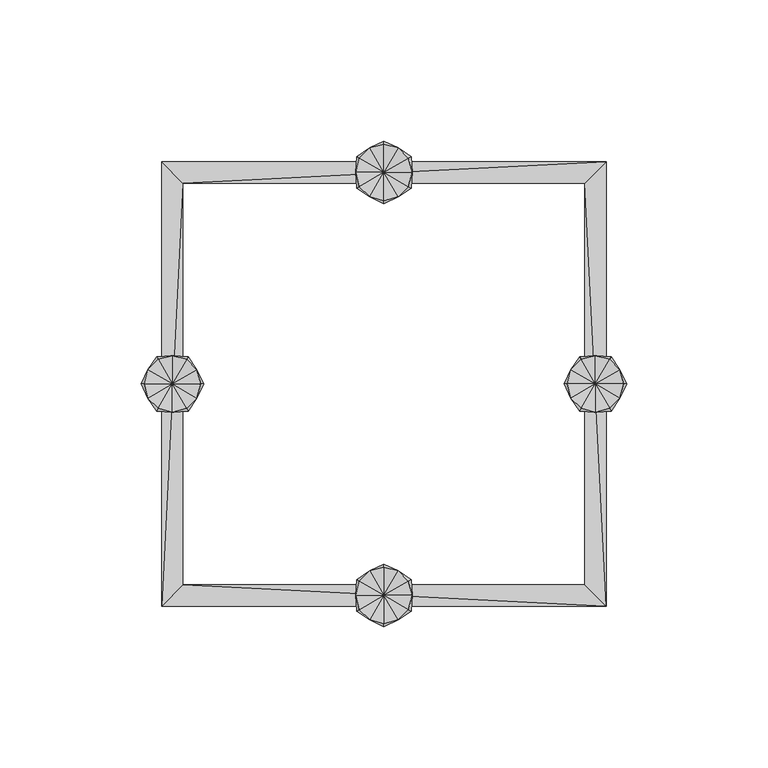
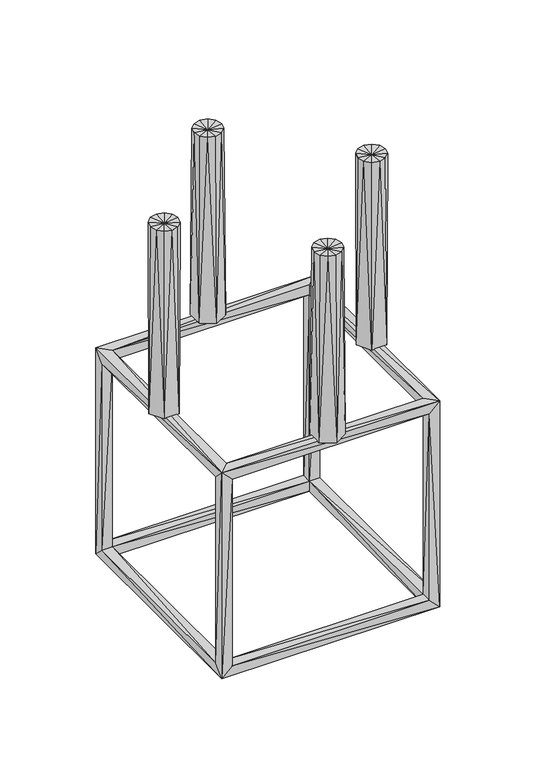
"""IFC4 building model written with IfcOpenShell, lengths in millimetres: geographic element geometry, Enscape AssetDefinition - Candle Holder : Enscape AssetDefinition - Candle Holder."""

from ifc_helpers import new_model, si_unit, origin, place, context, project, spatial, faceted_brep, source, transform, mapped, element, save


def geographic_element_282e2fb7(model_context):
    return source(origin(), model_context, "Body", "Brep", [
        faceted_brep([(-78.7499994, 78.7499994, 157.4999988), (-71.2499991, 71.2499991, 157.4999988), (78.7499994, 78.7499994, 157.4999988), (71.2499991, 71.2499991, 157.4999988), (71.2499991, 71.2499991, 150.000006), (-78.7499994, -78.7499994, 157.4999988), (-71.2499991, 71.2499991, 150.000006), (-71.2499991, -71.2499991, 150.000006), (-71.2499991, -71.2499991, 157.4999988), (78.7499994, -78.7499994, 157.4999988), (71.2499991, -71.2499991, 157.4999988), (71.2499991, -71.2499991, 150.000006), (78.7499994, -71.2499991, 150.000006), (78.7499994, 71.2499991, 150.000006), (78.7499994, -78.7499994, 0.0), (71.2499991, -78.7499994, 150.000006), (78.7499994, -71.2499991, 7.4999998), (71.2499991, 71.2499991, 7.4999998), (71.2499991, 78.7499994, 150.000006), (71.2499991, 78.7499994, 7.4999998), (-71.2499991, 78.7499994, 150.000006), (78.7499994, 78.7499994, 0.0), (-71.2499991, 78.7499994, 7.4999998), (-78.7499994, 78.7499994, 0.0), (-71.2499991, 71.2499991, 7.4999998), (-78.7499994, 71.2499991, 150.000006), (-78.7499994, -71.2499991, 150.000006), (-78.7499994, -78.7499994, 0.0), (-78.7499994, -71.2499991, 7.4999998), (-71.2499991, -78.7499994, 150.000006), (-78.7499994, 71.2499991, 7.4999998), (-71.2499991, -71.2499991, 7.4999998), (-71.2499991, -71.2499991, 0.0), (-71.2499991, -78.7499994, 7.4999998), (71.2499991, -78.7499994, 7.4999998), (71.2499991, -71.2499991, 7.4999998), (-71.2499991, 71.2499991, 0.0), (71.2499991, 71.2499991, 0.0), (78.7499994, 71.2499991, 7.4999998), (71.2499991, -71.2499991, 0.0)], [[[0, 1, 2]], [[3, 1, 4]], [[0, 5, 1]], [[6, 1, 7]], [[2, 1, 3]], [[4, 1, 6]], [[1, 5, 8]], [[7, 1, 8]], [[2, 3, 9]], [[9, 3, 10]], [[4, 10, 3]], [[11, 7, 10]], [[11, 10, 4]], [[8, 9, 10]], [[10, 7, 8]], [[5, 9, 8]], [[12, 13, 9]], [[9, 14, 12]], [[9, 5, 15]], [[9, 13, 2]], [[15, 14, 9]], [[11, 4, 12]], [[12, 16, 11]], [[12, 4, 13]], [[12, 14, 16]], [[4, 17, 13]], [[4, 6, 18]], [[19, 4, 18]], [[17, 4, 19]], [[18, 20, 2]], [[2, 21, 18]], [[18, 21, 19]], [[18, 6, 20]], [[19, 22, 17]], [[21, 23, 19]], [[19, 23, 22]], [[23, 0, 22]], [[17, 22, 24]], [[6, 22, 20]], [[6, 24, 22]], [[22, 0, 20]], [[2, 20, 0]], [[25, 5, 0]], [[23, 25, 0]], [[26, 5, 25]], [[27, 5, 28]], [[27, 29, 5]], [[28, 5, 26]], [[15, 5, 29]], [[30, 25, 23]], [[6, 26, 25]], [[30, 6, 25]], [[7, 26, 6]], [[26, 7, 28]], [[24, 6, 30]], [[28, 30, 27]], [[28, 24, 30]], [[27, 30, 23]], [[31, 24, 28]], [[28, 7, 31]], [[7, 29, 31]], [[29, 7, 15]], [[15, 7, 11]], [[31, 32, 24]], [[33, 34, 31]], [[31, 29, 33]], [[31, 34, 35]], [[35, 32, 31]], [[34, 14, 15]], [[34, 33, 14]], [[15, 35, 34]], [[33, 29, 27]], [[14, 33, 27]], [[27, 32, 14]], [[23, 36, 27]], [[27, 36, 32]], [[23, 21, 36]], [[37, 24, 36]], [[24, 32, 36]], [[36, 21, 37]], [[21, 14, 37]], [[38, 21, 13]], [[38, 14, 21]], [[13, 21, 2]], [[17, 24, 37]], [[37, 14, 39]], [[39, 17, 37]], [[35, 16, 17]], [[35, 17, 39]], [[17, 16, 38]], [[13, 17, 38]], [[16, 14, 38]], [[14, 32, 39]], [[39, 32, 35]], [[11, 35, 15]], [[11, 16, 35]]]),
        faceted_brep([(-9.6239997, -69.4440007, 157.4999988), (-10.0365002, -75.000003, 300.0000119), (-8.6917505, -69.9817538, 300.0000119), (0.0, -75.000003, 298.9537418), (-8.6917505, -80.0182521, 300.0000119), (-9.6239997, -80.5560052, 157.4999988), (-5.0182501, -66.3082525, 300.0000119), (0.0, -75.000003, 157.4999988), (0.0, -63.8872534, 157.4999988), (0.0, -86.1127526, 157.4999988), (-5.0182501, -83.691746, 300.0000119), (0.0, -85.0365013, 300.0000119), (5.0182501, -83.691746, 300.0000119), (9.6239997, -80.5560052, 157.4999988), (9.6239997, -69.4440007, 157.4999988), (10.0365002, -75.000003, 300.0000119), (8.6917505, -80.0182521, 300.0000119), (8.6917505, -69.9817538, 300.0000119), (5.0182501, -66.3082525, 300.0000119), (0.0, -64.9634972, 300.0000119)], [[[0, 1, 2]], [[2, 1, 3]], [[1, 4, 3]], [[1, 0, 5]], [[1, 5, 4]], [[6, 2, 3]], [[6, 0, 2]], [[7, 5, 0]], [[7, 0, 8]], [[6, 8, 0]], [[7, 9, 5]], [[10, 4, 5]], [[10, 5, 9]], [[4, 10, 3]], [[10, 9, 11]], [[10, 11, 3]], [[9, 12, 11]], [[7, 13, 9]], [[12, 9, 13]], [[7, 8, 14]], [[7, 14, 13]], [[13, 15, 16]], [[15, 13, 14]], [[12, 13, 16]], [[12, 16, 3]], [[11, 12, 3]], [[16, 15, 3]], [[15, 17, 3]], [[15, 14, 17]], [[14, 18, 17]], [[18, 14, 8]], [[17, 18, 3]], [[19, 6, 3]], [[18, 19, 3]], [[18, 8, 19]], [[8, 6, 19]]]),
        faceted_brep([(5.0182501, 83.691746, 300.0000119), (0.0, 86.1127526, 157.4999988), (0.0, 85.0365013, 300.0000119), (-9.6239997, 80.5560052, 157.4999988), (0.0, 75.000003, 157.4999988), (-5.0182501, 83.691746, 300.0000119), (9.6239997, 80.5560052, 157.4999988), (0.0, 75.000003, 298.9537418), (8.6917505, 80.0182521, 300.0000119), (9.6239997, 69.4440007, 157.4999988), (10.0365002, 75.000003, 300.0000119), (8.6917505, 69.9817538, 300.0000119), (5.0182501, 66.3082525, 300.0000119), (0.0, 63.8872534, 157.4999988), (0.0, 64.9634972, 300.0000119), (-9.6239997, 69.4440007, 157.4999988), (-5.0182501, 66.3082525, 300.0000119), (-8.6917505, 69.9817538, 300.0000119), (-10.0365002, 75.000003, 300.0000119), (-8.6917505, 80.0182521, 300.0000119)], [[[0, 1, 2]], [[3, 1, 4]], [[1, 5, 2]], [[1, 6, 4]], [[0, 6, 1]], [[5, 1, 3]], [[7, 0, 2]], [[7, 2, 5]], [[7, 8, 0]], [[0, 8, 6]], [[6, 9, 4]], [[10, 6, 8]], [[10, 9, 6]], [[7, 10, 8]], [[7, 11, 10]], [[10, 11, 9]], [[12, 9, 11]], [[9, 13, 4]], [[12, 13, 9]], [[7, 12, 11]], [[7, 14, 12]], [[12, 14, 13]], [[13, 15, 4]], [[16, 13, 14]], [[16, 15, 13]], [[7, 16, 14]], [[7, 17, 16]], [[16, 17, 15]], [[15, 3, 4]], [[18, 15, 17]], [[18, 3, 15]], [[7, 18, 17]], [[7, 19, 18]], [[18, 19, 3]], [[5, 3, 19]], [[7, 5, 19]]]),
        faceted_brep([(69.4440007, -9.6239997, 157.4999988), (75.000003, -10.0365002, 300.0000119), (69.9817538, -8.6917505, 300.0000119), (75.000003, 0.0, 298.9537418), (80.0182521, -8.6917505, 300.0000119), (80.5560052, -9.6239997, 157.4999988), (66.3082525, -5.0182501, 300.0000119), (75.000003, 0.0, 157.4999988), (63.8872534, 0.0, 157.4999988), (86.1127526, 0.0, 157.4999988), (83.691746, -5.0182501, 300.0000119), (85.0365013, 0.0, 300.0000119), (83.691746, 5.0182501, 300.0000119), (80.5560052, 9.6239997, 157.4999988), (69.4440007, 9.6239997, 157.4999988), (75.000003, 10.0365002, 300.0000119), (80.0182521, 8.6917505, 300.0000119), (69.9817538, 8.6917505, 300.0000119), (66.3082525, 5.0182501, 300.0000119), (64.9634972, 0.0, 300.0000119)], [[[0, 1, 2]], [[2, 1, 3]], [[1, 4, 3]], [[1, 0, 5]], [[1, 5, 4]], [[6, 2, 3]], [[6, 0, 2]], [[7, 5, 0]], [[7, 0, 8]], [[6, 8, 0]], [[7, 9, 5]], [[10, 4, 5]], [[10, 5, 9]], [[4, 10, 3]], [[10, 9, 11]], [[10, 11, 3]], [[9, 12, 11]], [[7, 13, 9]], [[12, 9, 13]], [[7, 8, 14]], [[7, 14, 13]], [[13, 15, 16]], [[15, 13, 14]], [[12, 13, 16]], [[12, 16, 3]], [[11, 12, 3]], [[16, 15, 3]], [[15, 17, 3]], [[15, 14, 17]], [[14, 18, 17]], [[18, 14, 8]], [[17, 18, 3]], [[19, 6, 3]], [[18, 19, 3]], [[18, 8, 19]], [[8, 6, 19]]]),
        faceted_brep([(-83.691746, 5.0182501, 300.0000119), (-86.1127526, 0.0, 157.4999988), (-85.0365013, 0.0, 300.0000119), (-80.5560052, -9.6239997, 157.4999988), (-75.000003, 0.0, 157.4999988), (-83.691746, -5.0182501, 300.0000119), (-80.5560052, 9.6239997, 157.4999988), (-75.000003, 0.0, 298.9537418), (-80.0182521, 8.6917505, 300.0000119), (-69.4440007, 9.6239997, 157.4999988), (-75.000003, 10.0365002, 300.0000119), (-69.9817538, 8.6917505, 300.0000119), (-66.3082525, 5.0182501, 300.0000119), (-63.8872534, 0.0, 157.4999988), (-64.9634972, 0.0, 300.0000119), (-69.4440007, -9.6239997, 157.4999988), (-66.3082525, -5.0182501, 300.0000119), (-69.9817538, -8.6917505, 300.0000119), (-75.000003, -10.0365002, 300.0000119), (-80.0182521, -8.6917505, 300.0000119)], [[[0, 1, 2]], [[3, 1, 4]], [[1, 5, 2]], [[1, 6, 4]], [[0, 6, 1]], [[5, 1, 3]], [[7, 0, 2]], [[7, 2, 5]], [[7, 8, 0]], [[0, 8, 6]], [[6, 9, 4]], [[10, 6, 8]], [[10, 9, 6]], [[7, 10, 8]], [[7, 11, 10]], [[10, 11, 9]], [[12, 9, 11]], [[9, 13, 4]], [[12, 13, 9]], [[7, 12, 11]], [[7, 14, 12]], [[12, 14, 13]], [[13, 15, 4]], [[16, 13, 14]], [[16, 15, 13]], [[7, 16, 14]], [[7, 17, 16]], [[16, 17, 15]], [[15, 3, 4]], [[18, 15, 17]], [[18, 3, 15]], [[7, 18, 17]], [[7, 19, 18]], [[18, 19, 3]], [[5, 3, 19]], [[7, 5, 19]]]),
    ])


if __name__ == "__main__":
    model = new_model("IFC4")
    model_context = context("Model", 3, world=origin())
    ifc_project = project(units=[si_unit("LENGTHUNIT", "METRE", prefix="MILLI")], contexts=[model_context])
    site = spatial("IfcSite", under=ifc_project)
    building = spatial("IfcBuilding", under=site)
    placement = place(None, origin())
    geographic_element_shape = geographic_element_282e2fb7(model_context)
    element("IfcGeographicElement", 1, ObjectType="Enscape AssetDefinition - Candle Holder : Enscape AssetDefinition - Candle Holder", at=placement, inside=building, context=model_context, shape_type="MappedRepresentation", body=[
        mapped(geographic_element_shape, transform((0.0, 0.0, 0.0), x_axis=(1.0, 0.0, 0.0), y_axis=(0.0, 1.0, 0.0), z_axis=(0.0, 0.0, 1.0))),
    ])
    save(model, "model.ifc")
